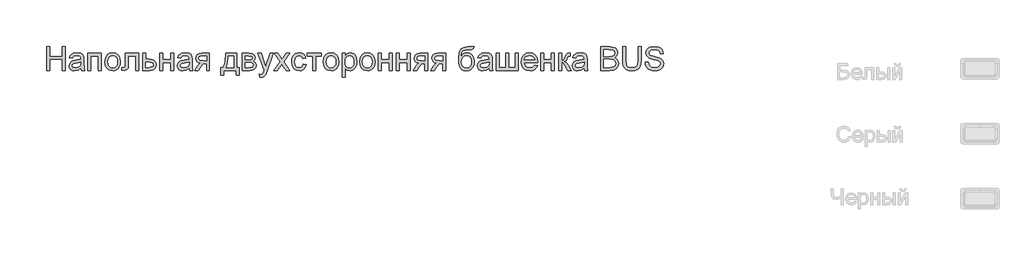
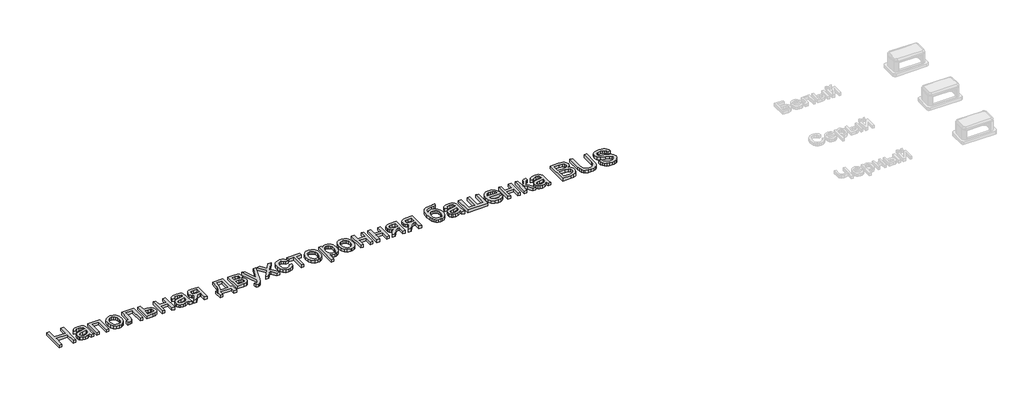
# One storey, part 35 of 48: 1 proxy.
"""IFC4 building model written with IfcOpenShell, lengths in millimetres."""

from ifc_helpers import new_model, si_unit, origin, origin_with_axes, place, context, project, spatial, polyline, outline, extrude, element, save

model = new_model("IFC4")

# Units and contexts
model_context = context("Model", 3, world=origin())
ifc_project = project(units=[si_unit("LENGTHUNIT", "METRE", prefix="MILLI")], contexts=[model_context])

# Site, building, storey
site = spatial("IfcSite", under=ifc_project)
building = spatial("IfcBuilding", under=site)
storey = spatial("IfcBuildingStorey", under=building, Name="Этаж 01", Elevation=0.0)

# Proxy
placement = place(None, origin())
element("IfcBuildingElementProxy", 1, Name="150 мм Arial", ObjectType="150 мм Arial", at=placement, inside=storey, context=model_context, shape_type="SweptSolid", body=[
    extrude(outline(polyline([(19595.0689144, 1029.1344555), (19595.0689144, 1179.8189207), (19613.9044725, 1179.8189207), (19613.9044725, 1118.6033567), (19693.9555947, 1118.6033567), (19693.9555947, 1179.8189207), (19712.7911528, 1179.8189207), (19712.7911528, 1029.1344555), (19693.9555947, 1029.1344555), (19693.9555947, 1099.7677986), (19613.9044725, 1099.7677986), (19613.9044725, 1029.1344555), (19595.0689144, 1029.1344555)])), origin_with_axes(), (0.0, 0.0, 1.0), 20.0),
    extrude(outline(polyline([(19814.0322779, 1043.2611241), (19795.7669368, 1030.4956189), (19775.5886094, 1026.7800107), (19759.8478585, 1029.0148939), (19748.2365831, 1035.7195432), (19741.0766797, 1045.9006774), (19738.6900453, 1058.5650151), (19742.2952888, 1073.4642359), (19751.7682502, 1084.2799666), (19764.9568197, 1090.4603841), (19781.2539921, 1093.2930755), (19813.9219133, 1099.7677986), (19814.0322779, 1103.9616533), (19812.7354939, 1112.3677569), (19808.8451418, 1117.8675927), (19800.1447326, 1121.9510829), (19788.0230208, 1123.3122463), (19768.9667335, 1119.6886086), (19759.8800482, 1106.8311329), (19741.04449, 1109.1855777), (19749.1930762, 1127.5796774), (19765.6006132, 1138.3586199), (19790.451042, 1142.1478044), (19813.2781198, 1138.8000783), (19826.1723837, 1130.3939747), (19831.9481311, 1117.6100753), (19832.867836, 1101.128962), (19832.867836, 1077.6948789), (19833.8243292, 1044.9717754), (19837.5767256, 1029.1344555), (19818.7411674, 1029.1344555), (19814.0322779, 1043.2611241)]), holes=[polyline([(19814.0322779, 1080.9322404), (19783.6452251, 1075.1564931), (19767.4400232, 1072.1030725), (19760.1007774, 1067.1366656), (19757.5256034, 1059.8893903), (19763.1358039, 1049.699059), (19779.5985231, 1045.6155689), (19798.6548105, 1050.1221233), (19810.9420691, 1061.0298245), (19813.9219133, 1075.5979515), (19814.0322779, 1080.9322404)])]), origin_with_axes(), (0.0, 0.0, 1.0), 20.0),
    extrude(outline(polyline([(19858.7667285, 1139.7933597), (19943.5267402, 1139.7933597), (19943.5267402, 1029.1344555), (19924.691182, 1029.1344555), (19924.691182, 1120.9578015), (19877.6022867, 1120.9578015), (19877.6022867, 1029.1344555), (19858.7667285, 1029.1344555), (19858.7667285, 1139.7933597)])), origin_with_axes(), (0.0, 0.0, 1.0), 20.0),
    extrude(outline(polyline([(19967.0711879, 1084.4639076), (19971.145481, 1111.1445493), (19983.3683603, 1129.897334), (19998.4699162, 1139.0851868), (20016.5513162, 1142.1478044), (20036.3387691, 1138.4184007), (20052.1438993, 1127.2301895), (20062.504376, 1109.4660877), (20065.9578682, 1086.009012), (20064.4311579, 1066.9803158), (20059.8510271, 1052.4949622), (20052.3508329, 1041.6470419), (20042.0639326, 1033.5306453), (20029.8456518, 1028.4676694), (20016.5513162, 1026.7800107), (19996.5247401, 1030.4956189), (19980.738004, 1041.6424433), (19970.4878919, 1059.7790257), (19967.0711879, 1084.4639076)]), holes=[polyline([(19985.906746, 1084.5006958), (19988.0864469, 1067.4539638), (19994.6255493, 1055.3092595), (20004.4663927, 1048.0389915), (20016.5513162, 1045.6155689), (20028.5810575, 1048.0527871), (20038.4035067, 1055.3644418), (20044.9426092, 1067.6700945), (20047.12231, 1085.089307), (20044.9288136, 1101.6393982), (20038.3483245, 1113.6185557), (20028.5120796, 1120.8888236), (20016.5513162, 1123.3122463), (20004.4663927, 1120.8980207), (19994.6255493, 1113.6553439), (19988.0864469, 1101.5382307), (19985.906746, 1084.5006958)])]), origin_with_axes(), (0.0, 0.0, 1.0), 20.0),
    extrude(outline(polyline([(20096.5656502, 1139.7933597), (20181.3256619, 1139.7933597), (20181.3256619, 1029.2448201), (20162.4901037, 1029.2448201), (20162.4901037, 1120.9578015), (20115.4012083, 1120.9578015), (20115.4012083, 1068.1667352), (20114.1320155, 1043.8129471), (20107.1606516, 1033.5306453), (20090.6795383, 1029.1344555), (20075.3756473, 1030.0909487), (20075.3756473, 1047.9700137), (20083.800145, 1047.9700137), (20092.3166131, 1049.1288419), (20095.7195216, 1052.8076619), (20096.5656502, 1069.233593), (20096.5656502, 1139.7933597)])), origin_with_axes(), (0.0, 0.0, 1.0), 20.0),
    extrude(outline(polyline([(20209.5789991, 1139.7933597), (20228.4145573, 1139.7933597), (20228.4145573, 1099.7677986), (20250.119595, 1099.7677986), (20268.936759, 1097.4087553), (20282.8610925, 1090.3316254), (20291.4695312, 1079.106626), (20294.3390108, 1064.3039742), (20291.8971941, 1050.8256976), (20284.5717438, 1039.4535455), (20271.8752165, 1031.714228), (20253.3201683, 1029.1344555), (20209.5789991, 1029.1344555), (20209.5789991, 1139.7933597)]), holes=[polyline([(20228.4145573, 1047.9700137), (20245.9993166, 1047.9700137), (20268.7160298, 1051.9247451), (20273.8065969, 1056.9877211), (20275.5034526, 1064.267186), (20270.4818634, 1075.8554689), (20262.4114521, 1079.6630475), (20248.2433968, 1080.9322404), (20228.4145573, 1080.9322404), (20228.4145573, 1047.9700137)])]), origin_with_axes(), (0.0, 0.0, 1.0), 20.0),
    extrude(outline(polyline([(20317.8834585, 1139.7933597), (20336.7190166, 1139.7933597), (20336.7190166, 1097.4133538), (20386.1623568, 1097.4133538), (20386.1623568, 1139.7933597), (20404.9979149, 1139.7933597), (20404.9979149, 1029.1344555), (20386.1623568, 1029.1344555), (20386.1623568, 1078.5777957), (20336.7190166, 1078.5777957), (20336.7190166, 1029.1344555), (20317.8834585, 1029.1344555), (20317.8834585, 1139.7933597)])), origin_with_axes(), (0.0, 0.0, 1.0), 20.0),
    extrude(outline(polyline([(20503.8845952, 1043.2611241), (20485.6192542, 1030.4956189), (20465.4409268, 1026.7800107), (20449.7001759, 1029.0148939), (20438.0889004, 1035.7195432), (20430.9289971, 1045.9006774), (20428.5423626, 1058.5650151), (20432.1476062, 1073.4642359), (20441.6205676, 1084.2799666), (20454.8091371, 1090.4603841), (20471.1063095, 1093.2930755), (20503.7742306, 1099.7677986), (20503.8845952, 1103.9616533), (20502.5878112, 1112.3677569), (20498.6974591, 1117.8675927), (20489.9970499, 1121.9510829), (20477.8753382, 1123.3122463), (20458.8190508, 1119.6886086), (20449.7323656, 1106.8311329), (20430.8968074, 1109.1855777), (20439.0453936, 1127.5796774), (20455.4529306, 1138.3586199), (20480.3033594, 1142.1478044), (20503.1304372, 1138.8000783), (20516.0247011, 1130.3939747), (20521.8004484, 1117.6100753), (20522.7201534, 1101.128962), (20522.7201534, 1077.6948789), (20523.6766466, 1044.9717754), (20527.4290429, 1029.1344555), (20508.5934848, 1029.1344555), (20503.8845952, 1043.2611241)]), holes=[polyline([(20503.8845952, 1080.9322404), (20473.4975424, 1075.1564931), (20457.2923406, 1072.1030725), (20449.9530948, 1067.1366656), (20447.3779208, 1059.8893903), (20452.9881212, 1049.699059), (20469.4508405, 1045.6155689), (20488.5071278, 1050.1221233), (20500.7943865, 1061.0298245), (20503.7742306, 1075.5979515), (20503.8845952, 1080.9322404)])]), origin_with_axes(), (0.0, 0.0, 1.0), 20.0),
    extrude(outline(polyline([(20633.3790575, 1139.7933597), (20633.3790575, 1029.1344555), (20614.5434994, 1029.1344555), (20614.5434994, 1071.5144613), (20604.2795917, 1071.5144613), (20590.3000759, 1069.1232284), (20577.1666887, 1053.0467852), (20562.1571033, 1029.1344555), (20540.3784892, 1029.1344555), (20559.2876237, 1059.3743555), (20567.638545, 1070.2268744), (20575.3272787, 1075.0461285), (20562.4514089, 1078.9916629), (20553.4015118, 1086.4872586), (20548.0488288, 1096.4568606), (20546.2646011, 1107.8244143), (20548.7018193, 1120.7186782), (20556.013474, 1130.9274036), (20567.9420477, 1137.5768706), (20584.230023, 1139.7933597), (20633.3790575, 1139.7933597)]), holes=[polyline([(20614.5434994, 1120.9578015), (20589.7114647, 1120.9578015), (20576.8861787, 1119.8679511), (20569.6067137, 1116.5983999), (20565.1001592, 1106.3896745), (20566.7602267, 1099.2113771), (20571.7404293, 1094.2311746), (20595.2664828, 1090.3500195), (20614.5434994, 1090.3500195), (20614.5434994, 1120.9578015)])]), origin_with_axes(), (0.0, 0.0, 1.0), 20.0),
    extrude(outline(polyline([(20736.9746274, 1139.7933597), (20807.6079705, 1139.7933597), (20807.6079705, 1047.9700137), (20821.7346391, 1047.9700137), (20821.7346391, 998.5266735), (20802.8990809, 998.5266735), (20802.8990809, 1029.1344555), (20725.2024035, 1029.1344555), (20725.2024035, 998.5266735), (20706.3668454, 998.5266735), (20706.3668454, 1047.9700137), (20718.1390692, 1047.9700137), (20726.6969242, 1063.434853), (20732.6888021, 1083.8936905), (20736.9746274, 1139.7933597)]), holes=[polyline([(20753.4557408, 1120.9578015), (20749.0411568, 1078.0443668), (20739.3290722, 1047.9700137), (20788.7724123, 1047.9700137), (20788.7724123, 1120.9578015), (20753.4557408, 1120.9578015)])]), origin_with_axes(), (0.0, 0.0, 1.0), 20.0),
    extrude(outline(polyline([(20842.924642, 1139.7933597), (20884.4217311, 1139.7933597), (20907.1752325, 1137.273368), (20919.9775259, 1128.0395299), (20925.3302089, 1111.9446926), (20922.0928474, 1098.8664877), (20912.3439745, 1089.5406791), (20924.9991151, 1079.3319537), (20930.0390985, 1061.5816475), (20926.8477222, 1047.2250526), (20919.260156, 1037.1174948), (20907.2488089, 1031.1302153), (20890.7860896, 1029.1344555), (20842.924642, 1029.1344555), (20842.924642, 1139.7933597)]), holes=[polyline([(20861.7602002, 1097.4133538), (20880.3750291, 1097.4133538), (20895.7341024, 1098.369847), (20903.2021069, 1102.1958197), (20906.4946508, 1109.1120013), (20905.0507139, 1114.7313987), (20900.7189034, 1118.3458393), (20880.9636403, 1120.9578015), (20861.7602002, 1120.9578015), (20861.7602002, 1097.4133538)]), polyline([(20861.7602002, 1047.9700137), (20884.8631895, 1047.9700137), (20905.3542166, 1051.3729221), (20909.5940566, 1056.0128338), (20911.2035403, 1063.1267519), (20907.9845728, 1072.195043), (20899.5968634, 1077.4741497), (20883.0237795, 1078.5777957), (20861.7602002, 1078.5777957), (20861.7602002, 1047.9700137)])]), origin_with_axes(), (0.0, 0.0, 1.0), 20.0),
    extrude(outline(polyline([(20953.5835462, 986.7544497), (20951.2291014, 1004.891032), (20960.7940333, 1003.235563), (20969.7335657, 1005.3140963), (20975.2150075, 1011.1082377), (20980.3653554, 1024.977389), (20981.8368834, 1029.5391257), (20941.8113223, 1139.7933597), (20961.67695, 1139.7933597), (20982.9037412, 1078.3570665), (20990.2981693, 1053.7825492), (20997.6925974, 1075.4875869), (21019.5079997, 1139.7933597), (21039.2264746, 1139.7933597), (21000.7092297, 1026.4857051), (20990.7028395, 1001.9111879), (20979.7767442, 988.6306478), (20965.0982526, 984.4000049), (20953.5835462, 986.7544497)])), origin_with_axes(), (0.0, 0.0, 1.0), 20.0),
    extrude(outline(polyline([(21043.0524474, 1029.1344555), (21083.2987377, 1084.7582132), (21045.4068921, 1139.7933597), (21068.068423, 1139.7933597), (21086.3521582, 1113.305856), (21094.8870205, 1100.7978682), (21102.2814486, 1111.0249876), (21123.1035695, 1139.7933597), (21145.7651004, 1139.7933597), (21105.9602686, 1084.7582132), (21144.2935725, 1029.1344555), (21121.6320415, 1029.1344555), (21098.5658404, 1062.5749289), (21094.3351975, 1068.68177), (21065.7139783, 1029.1344555), (21043.0524474, 1029.1344555)])), origin_with_axes(), (0.0, 0.0, 1.0), 20.0),
    extrude(outline(polyline([(21231.4080289, 1069.1600166), (21250.2435871, 1066.8055718), (21244.9920716, 1050.0531455), (21235.1236371, 1037.3934063), (21221.5671855, 1029.4333596), (21205.2516191, 1026.7800107), (21185.2158459, 1030.4818233), (21169.5486714, 1041.587261), (21159.4365151, 1059.6088803), (21156.0657963, 1084.0592374), (21157.5051346, 1100.8208608), (21161.8231495, 1115.3476011), (21169.0888189, 1127.0784382), (21179.3711207, 1135.4523521), (21191.6721749, 1140.4739413), (21204.9941017, 1142.1478044), (21220.9095965, 1139.848542), (21233.633715, 1132.9507545), (21242.761787, 1121.8223242), (21247.8891423, 1106.8311329), (21229.0535841, 1104.4766881), (21220.3163868, 1118.5849626), (21205.1412545, 1123.3122463), (21192.9689589, 1120.9853927), (21183.307458, 1114.0048318), (21177.0028803, 1101.9934847), (21174.9013544, 1084.5742722), (21176.9568951, 1066.9205349), (21183.123517, 1054.8678011), (21192.610274, 1047.9286269), (21204.6262197, 1045.6155689), (21214.3796911, 1047.0595057), (21222.3765259, 1051.3913162), (21228.19366, 1058.721365), (21231.4080289, 1069.1600166)])), origin_with_axes(), (0.0, 0.0, 1.0), 20.0),
    extrude(outline(polyline([(21257.3069214, 1139.7933597), (21346.7758226, 1139.7933597), (21346.7758226, 1120.9578015), (21311.4591511, 1120.9578015), (21311.4591511, 1029.1344555), (21292.6235929, 1029.1344555), (21292.6235929, 1120.9578015), (21257.3069214, 1120.9578015), (21257.3069214, 1139.7933597)])), origin_with_axes(), (0.0, 0.0, 1.0), 20.0),
    extrude(outline(polyline([(21358.5480464, 1084.4639076), (21362.6223395, 1111.1445493), (21374.8452188, 1129.897334), (21389.9467747, 1139.0851868), (21408.0281748, 1142.1478044), (21427.8156276, 1138.4184007), (21443.6207578, 1127.2301895), (21453.9812345, 1109.4660877), (21457.4347267, 1086.009012), (21455.9080165, 1066.9803158), (21451.3278856, 1052.4949622), (21443.8276914, 1041.6470419), (21433.5407912, 1033.5306453), (21421.3225104, 1028.4676694), (21408.0281748, 1026.7800107), (21388.0015987, 1030.4956189), (21372.2148626, 1041.6424433), (21361.9647505, 1059.7790257), (21358.5480464, 1084.4639076)]), holes=[polyline([(21377.3836046, 1084.5006958), (21379.5633054, 1067.4539638), (21386.1024079, 1055.3092595), (21395.9432513, 1048.0389915), (21408.0281748, 1045.6155689), (21420.057916, 1048.0527871), (21429.8803653, 1055.3644418), (21436.4194678, 1067.6700945), (21438.5991686, 1085.089307), (21436.4056722, 1101.6393982), (21429.825183, 1113.6185557), (21419.9889382, 1120.8888236), (21408.0281748, 1123.3122463), (21395.9432513, 1120.8980207), (21386.1024079, 1113.6553439), (21379.5633054, 1101.5382307), (21377.3836046, 1084.5006958)])]), origin_with_axes(), (0.0, 0.0, 1.0), 20.0),
    extrude(outline(polyline([(21478.6247297, 986.7544497), (21478.6247297, 1139.7933597), (21497.4602878, 1139.7933597), (21497.4602878, 1121.3256835), (21510.4833104, 1136.9422742), (21528.0680698, 1142.1478044), (21540.8059839, 1140.3267885), (21551.9436113, 1134.8637409), (21561.0119025, 1126.0897553), (21567.5418079, 1114.3359256), (21572.8025204, 1085.3100362), (21571.3171969, 1069.2014033), (21566.8612262, 1054.7942247), (21559.5771627, 1042.8196657), (21549.6075606, 1034.0088919), (21537.9962852, 1028.587231), (21525.7872014, 1026.7800107), (21509.3980586, 1031.617659), (21497.4602878, 1043.8497353), (21497.4602878, 986.7544497), (21478.6247297, 986.7544497)]), holes=[polyline([(21497.4602878, 1083.5809908), (21499.4974344, 1066.6952072), (21505.608874, 1054.8861952), (21514.6265814, 1047.9332255), (21525.3825313, 1045.6155689), (21536.313225, 1048.0159989), (21545.5608587, 1055.217289), (21551.8654364, 1067.4585624), (21553.9669623, 1084.9789424), (21551.9160202, 1101.7727555), (21545.7631938, 1113.7473144), (21536.759282, 1120.9210133), (21526.1550834, 1123.3122463), (21515.5094982, 1120.769262), (21506.160697, 1113.1403091), (21499.6353901, 1100.6645109), (21497.4602878, 1083.5809908)])]), origin_with_axes(), (0.0, 0.0, 1.0), 20.0),
    extrude(outline(polyline([(21589.2836338, 1084.4639076), (21593.3579269, 1111.1445493), (21605.5808062, 1129.897334), (21620.6823621, 1139.0851868), (21638.7637622, 1142.1478044), (21658.551215, 1138.4184007), (21674.3563452, 1127.2301895), (21684.7168219, 1109.4660877), (21688.1703141, 1086.009012), (21686.6436038, 1066.9803158), (21682.063473, 1052.4949622), (21674.5632788, 1041.6470419), (21664.2763785, 1033.5306453), (21652.0580978, 1028.4676694), (21638.7637622, 1026.7800107), (21618.7371861, 1030.4956189), (21602.9504499, 1041.6424433), (21592.7003378, 1059.7790257), (21589.2836338, 1084.4639076)]), holes=[polyline([(21608.119192, 1084.5006958), (21610.2988928, 1067.4539638), (21616.8379953, 1055.3092595), (21626.6788386, 1048.0389915), (21638.7637622, 1045.6155689), (21650.7935034, 1048.0527871), (21660.6159527, 1055.3644418), (21667.1550551, 1067.6700945), (21669.334756, 1085.089307), (21667.1412596, 1101.6393982), (21660.5607704, 1113.6185557), (21650.7245255, 1120.8888236), (21638.7637622, 1123.3122463), (21626.6788386, 1120.8980207), (21616.8379953, 1113.6553439), (21610.2988928, 1101.5382307), (21608.119192, 1084.5006958)])]), origin_with_axes(), (0.0, 0.0, 1.0), 20.0),
    extrude(outline(polyline([(21709.360317, 1139.7933597), (21728.1958752, 1139.7933597), (21728.1958752, 1097.4133538), (21777.6392153, 1097.4133538), (21777.6392153, 1139.7933597), (21796.4747735, 1139.7933597), (21796.4747735, 1029.1344555), (21777.6392153, 1029.1344555), (21777.6392153, 1078.5777957), (21728.1958752, 1078.5777957), (21728.1958752, 1029.1344555), (21709.360317, 1029.1344555), (21709.360317, 1139.7933597)])), origin_with_axes(), (0.0, 0.0, 1.0), 20.0),
    extrude(outline(polyline([(21824.7281107, 1139.7933597), (21843.5636689, 1139.7933597), (21843.5636689, 1097.4133538), (21893.007009, 1097.4133538), (21893.007009, 1139.7933597), (21911.8425672, 1139.7933597), (21911.8425672, 1029.1344555), (21893.007009, 1029.1344555), (21893.007009, 1078.5777957), (21843.5636689, 1078.5777957), (21843.5636689, 1029.1344555), (21824.7281107, 1029.1344555), (21824.7281107, 1139.7933597)])), origin_with_axes(), (0.0, 0.0, 1.0), 20.0),
    extrude(outline(polyline([(22024.8559161, 1139.7933597), (22024.8559161, 1029.1344555), (22006.020358, 1029.1344555), (22006.020358, 1071.5144613), (21995.7564503, 1071.5144613), (21981.7769345, 1069.1232284), (21968.6435472, 1053.0467852), (21953.6339618, 1029.1344555), (21931.8553477, 1029.1344555), (21950.7644823, 1059.3743555), (21959.1154036, 1070.2268744), (21966.8041373, 1075.0461285), (21953.9282674, 1078.9916629), (21944.8783704, 1086.4872586), (21939.5256873, 1096.4568606), (21937.7414596, 1107.8244143), (21940.1786779, 1120.7186782), (21947.4903325, 1130.9274036), (21959.4189062, 1137.5768706), (21975.7068815, 1139.7933597), (22024.8559161, 1139.7933597)]), holes=[polyline([(22006.020358, 1120.9578015), (21981.1883233, 1120.9578015), (21968.3630372, 1119.8679511), (21961.0835722, 1116.5983999), (21956.5770178, 1106.3896745), (21958.2370853, 1099.2113771), (21963.2172878, 1094.2311746), (21986.7433414, 1090.3500195), (22006.020358, 1090.3500195), (22006.020358, 1120.9578015)])]), origin_with_axes(), (0.0, 0.0, 1.0), 20.0),
    extrude(outline(polyline([(22137.869265, 1139.7933597), (22137.869265, 1029.1344555), (22119.0337069, 1029.1344555), (22119.0337069, 1071.5144613), (22108.7697992, 1071.5144613), (22094.7902834, 1069.1232284), (22081.6568962, 1053.0467852), (22066.6473108, 1029.1344555), (22044.8686966, 1029.1344555), (22063.7778312, 1059.3743555), (22072.1287525, 1070.2268744), (22079.8174862, 1075.0461285), (22066.9416164, 1078.9916629), (22057.8917193, 1086.4872586), (22052.5390362, 1096.4568606), (22050.7548086, 1107.8244143), (22053.1920268, 1120.7186782), (22060.5036814, 1130.9274036), (22072.4322551, 1137.5768706), (22088.7202305, 1139.7933597), (22137.869265, 1139.7933597)]), holes=[polyline([(22119.0337069, 1120.9578015), (22094.2016722, 1120.9578015), (22081.3763861, 1119.8679511), (22074.0969212, 1116.5983999), (22069.5903667, 1106.3896745), (22071.2504342, 1099.2113771), (22076.2306367, 1094.2311746), (22099.7566903, 1090.3500195), (22119.0337069, 1090.3500195), (22119.0337069, 1120.9578015)])]), origin_with_axes(), (0.0, 0.0, 1.0), 20.0),
    extrude(outline(polyline([(22302.6803989, 1182.1733655), (22319.1615122, 1182.1733655), (22314.3054699, 1167.4764798), (22304.7037498, 1162.160585), (22281.6375487, 1160.9833626), (22250.5699142, 1156.642355), (22243.4422006, 1150.9953664), (22238.6505376, 1142.7364156), (22234.6222298, 1118.1251101), (22250.9377962, 1136.1513279), (22260.8568145, 1140.6486853), (22271.9622523, 1142.1478044), (22291.5611656, 1138.3356272), (22307.4628648, 1126.8990957), (22318.002684, 1108.9602499), (22321.515957, 1085.64113), (22319.7731161, 1067.6608975), (22314.5445932, 1053.2307262), (22298.0082975, 1033.6777981), (22286.7143203, 1028.5044576), (22271.9622523, 1026.7800107), (22254.9615056, 1029.0010983), (22242.218993, 1035.6643609), (22232.8426006, 1045.7903128), (22225.9402147, 1058.3994682), (22221.6911776, 1077.3867777), (22220.2748319, 1106.6471919), (22223.8478858, 1142.7869994), (22234.5670475, 1164.8277294), (22252.6990313, 1176.0711229), (22278.5105518, 1179.8189207), (22299.4798255, 1180.241985), (22302.6803989, 1182.1733655)]), holes=[polyline([(22302.6803989, 1086.2297412), (22300.6386538, 1101.050787), (22294.5134186, 1112.9195799), (22284.6725752, 1120.7140797), (22271.4840057, 1123.3122463), (22257.7344161, 1120.5669269), (22247.5348878, 1112.3309687), (22241.2165145, 1099.5056827), (22239.1103901, 1082.9923796), (22241.4372437, 1066.9849143), (22248.4178046, 1055.2356831), (22258.8104709, 1048.0205974), (22271.3736411, 1045.6155689), (22284.0011906, 1048.3976765), (22293.9983838, 1056.7439992), (22300.5098951, 1069.6796499), (22302.6803989, 1086.2297412)])]), origin_with_axes(), (0.0, 0.0, 1.0), 20.0),
    extrude(outline(polyline([(22415.6937478, 1043.2611241), (22397.4284067, 1030.4956189), (22377.2500793, 1026.7800107), (22361.5093284, 1029.0148939), (22349.8980529, 1035.7195432), (22342.7381496, 1045.9006774), (22340.3515152, 1058.5650151), (22343.9567587, 1073.4642359), (22353.4297201, 1084.2799666), (22366.6182896, 1090.4603841), (22382.915462, 1093.2930755), (22415.5833832, 1099.7677986), (22415.6937478, 1103.9616533), (22414.3969637, 1112.3677569), (22410.5066116, 1117.8675927), (22401.8062025, 1121.9510829), (22389.6844907, 1123.3122463), (22370.6282034, 1119.6886086), (22361.5415181, 1106.8311329), (22342.7059599, 1109.1855777), (22350.8545461, 1127.5796774), (22367.2620831, 1138.3586199), (22392.1125119, 1142.1478044), (22414.9395897, 1138.8000783), (22427.8338536, 1130.3939747), (22433.6096009, 1117.6100753), (22434.5293059, 1101.128962), (22434.5293059, 1077.6948789), (22435.4857991, 1044.9717754), (22439.2381955, 1029.1344555), (22420.4026373, 1029.1344555), (22415.6937478, 1043.2611241)]), holes=[polyline([(22415.6937478, 1080.9322404), (22385.306695, 1075.1564931), (22369.1014931, 1072.1030725), (22361.7622473, 1067.1366656), (22359.1870733, 1059.8893903), (22364.7972737, 1049.699059), (22381.259993, 1045.6155689), (22400.3162804, 1050.1221233), (22412.603539, 1061.0298245), (22415.5833832, 1075.5979515), (22415.6937478, 1080.9322404)])]), origin_with_axes(), (0.0, 0.0, 1.0), 20.0),
    extrude(outline(polyline([(22460.4281984, 1139.7933597), (22479.2637565, 1139.7933597), (22479.2637565, 1047.9700137), (22521.6437624, 1047.9700137), (22521.6437624, 1139.7933597), (22540.4793205, 1139.7933597), (22540.4793205, 1047.9700137), (22582.8593264, 1047.9700137), (22582.8593264, 1139.7933597), (22601.6948845, 1139.7933597), (22601.6948845, 1029.1344555), (22460.4281984, 1029.1344555), (22460.4281984, 1139.7933597)])), origin_with_axes(), (0.0, 0.0, 1.0), 20.0),
    extrude(outline(polyline([(22705.0697252, 1062.0966823), (22723.5374013, 1059.7422375), (22716.8833358, 1045.827101), (22706.2653417, 1035.4252376), (22691.9225424, 1028.9413175), (22674.0940612, 1026.7800107), (22651.9935503, 1030.5094145), (22634.9882051, 1041.6976256), (22624.1448833, 1059.6180773), (22620.5304427, 1083.5442026), (22624.1816715, 1108.2750697), (22635.1353579, 1126.770337), (22651.9107769, 1138.3034376), (22673.0272034, 1142.1478044), (22693.4860409, 1138.3126346), (22709.833797, 1126.8071252), (22720.5529587, 1108.3486461), (22724.1260125, 1083.6545672), (22724.0156479, 1078.5777957), (22639.3660008, 1078.5777957), (22642.626355, 1064.4787182), (22650.2001256, 1054.113643), (22661.1308194, 1047.7400874), (22674.4619432, 1045.6155689), (22692.9296193, 1049.5519062), (22705.0697252, 1062.0966823)]), holes=[polyline([(22639.3660008, 1097.4133538), (22705.2904544, 1097.4133538), (22702.7428716, 1107.3645618), (22697.7488735, 1114.4830784), (22686.7675959, 1121.1049543), (22672.953627, 1123.3122463), (22660.2570996, 1121.5510112), (22649.7586672, 1116.2673061), (22642.4608081, 1108.0313479), (22639.3660008, 1097.4133538)])]), origin_with_axes(), (0.0, 0.0, 1.0), 20.0),
    extrude(outline(polyline([(22742.9615707, 1139.7933597), (22761.7971288, 1139.7933597), (22761.7971288, 1097.4133538), (22811.240469, 1097.4133538), (22811.240469, 1139.7933597), (22830.0760271, 1139.7933597), (22830.0760271, 1029.1344555), (22811.240469, 1029.1344555), (22811.240469, 1078.5777957), (22761.7971288, 1078.5777957), (22761.7971288, 1029.1344555), (22742.9615707, 1029.1344555), (22742.9615707, 1139.7933597)])), origin_with_axes(), (0.0, 0.0, 1.0), 20.0),
    extrude(outline(polyline([(22858.3293644, 1139.7933597), (22877.1649225, 1139.7933597), (22877.1649225, 1092.7044643), (22889.783275, 1096.0889786), (22900.120759, 1115.8074536), (22908.7108036, 1132.8219958), (22916.2891727, 1138.3586199), (22930.0663534, 1139.7933597), (22933.671597, 1139.7933597), (22933.671597, 1120.8474369), (22928.5948255, 1120.9578015), (22919.3977756, 1118.9712387), (22912.9230525, 1106.5736155), (22905.3262893, 1093.1643168), (22894.6761055, 1086.5976232), (22906.5586939, 1079.2675744), (22918.2205532, 1063.8257277), (22938.3804865, 1029.1344555), (22916.9697544, 1029.1344555), (22897.2144913, 1063.0899637), (22887.2816774, 1077.4557556), (22877.1649225, 1080.9322404), (22877.1649225, 1029.1344555), (22858.3293644, 1029.1344555), (22858.3293644, 1139.7933597)])), origin_with_axes(), (0.0, 0.0, 1.0), 20.0),
    extrude(outline(polyline([(23020.7860534, 1043.2611241), (23002.5207124, 1030.4956189), (22982.342385, 1026.7800107), (22966.6016341, 1029.0148939), (22954.9903586, 1035.7195432), (22947.8304553, 1045.9006774), (22945.4438208, 1058.5650151), (22949.0490644, 1073.4642359), (22958.5220258, 1084.2799666), (22971.7105953, 1090.4603841), (22988.0077677, 1093.2930755), (23020.6756888, 1099.7677986), (23020.7860534, 1103.9616533), (23019.4892694, 1112.3677569), (23015.5989173, 1117.8675927), (23006.8985081, 1121.9510829), (22994.7767964, 1123.3122463), (22975.720509, 1119.6886086), (22966.6338238, 1106.8311329), (22947.7982656, 1109.1855777), (22955.9468518, 1127.5796774), (22972.3543888, 1138.3586199), (22997.2048176, 1142.1478044), (23020.0318954, 1138.8000783), (23032.9261593, 1130.3939747), (23038.7019066, 1117.6100753), (23039.6216116, 1101.128962), (23039.6216116, 1077.6948789), (23040.5781048, 1044.9717754), (23044.3305011, 1029.1344555), (23025.494943, 1029.1344555), (23020.7860534, 1043.2611241)]), holes=[polyline([(23020.7860534, 1080.9322404), (22990.3990006, 1075.1564931), (22974.1937988, 1072.1030725), (22966.854553, 1067.1366656), (22964.279379, 1059.8893903), (22969.8895794, 1049.699059), (22986.3522987, 1045.6155689), (23005.408586, 1050.1221233), (23017.6958447, 1061.0298245), (23020.6756888, 1075.5979515), (23020.7860534, 1080.9322404)])]), origin_with_axes(), (0.0, 0.0, 1.0), 20.0),
    extrude(outline(polyline([(23126.7360681, 1029.1344555), (23126.7360681, 1179.8189207), (23184.2360239, 1179.8189207), (23212.3973906, 1175.3859427), (23221.861155, 1169.7619467), (23229.0256568, 1161.7559148), (23235.0405274, 1142.4788982), (23229.98215, 1124.8757448), (23214.6966531, 1111.5400224), (23225.3698295, 1105.9666102), (23233.2562998, 1097.4869302), (23238.1261377, 1086.6620025), (23239.749417, 1074.0528471), (23235.3164389, 1053.8009433), (23224.3351614, 1039.3799691), (23207.9460185, 1031.7280236), (23183.7945655, 1029.1344555), (23126.7360681, 1029.1344555)]), holes=[polyline([(23145.5716262, 1118.6033567), (23179.9685928, 1118.6033567), (23200.0549497, 1120.2220375), (23212.1398732, 1127.1934013), (23216.2049693, 1139.4622659), (23212.4157847, 1151.7495245), (23201.5632659, 1159.0151939), (23177.3566306, 1160.9833626), (23145.5716262, 1160.9833626), (23145.5716262, 1118.6033567)]), polyline([(23145.5716262, 1047.9700137), (23184.1992357, 1047.9700137), (23198.1787515, 1048.7057776), (23210.0061577, 1052.8076619), (23217.8420442, 1061.1769773), (23220.9138588, 1073.8689061), (23217.3086153, 1088.5106095), (23205.6283619, 1097.2478069), (23182.3598257, 1099.7677986), (23145.5716262, 1099.7677986), (23145.5716262, 1047.9700137)])]), origin_with_axes(), (0.0, 0.0, 1.0), 20.0),
    extrude(outline(polyline([(23364.5349897, 1179.8189207), (23383.3705479, 1179.8189207), (23383.3705479, 1092.8884053), (23382.092158, 1072.5307354), (23378.2569882, 1056.8543638), (23371.0924863, 1044.7602433), (23359.8261002, 1035.1493261), (23344.4302387, 1028.8723396), (23324.8773107, 1026.7800107), (23305.7520454, 1028.6010266), (23290.46195, 1034.0640742), (23279.0024259, 1042.9806141), (23271.3688745, 1055.1621067), (23267.0784507, 1071.5006658), (23265.6483094, 1092.8884053), (23265.6483094, 1179.8189207), (23284.4838676, 1179.8189207), (23284.4838676, 1093.5505929), (23288.1994757, 1064.8374031), (23293.2486561, 1056.6750214), (23300.964981, 1050.618764), (23323.1114771, 1045.6155689), (23342.268932, 1048.0895753), (23355.0068461, 1055.5115946), (23362.1529538, 1069.969357), (23364.5349897, 1093.5505929), (23364.5349897, 1179.8189207)])), origin_with_axes(), (0.0, 0.0, 1.0), 20.0),
    extrude(outline(polyline([(23409.2694404, 1080.9322404), (23428.1049985, 1080.9322404), (23434.1750514, 1062.0782882), (23449.0006958, 1050.1589115), (23471.5886503, 1045.6155689), (23491.2703371, 1049.0552655), (23503.98066, 1058.5098328), (23508.1561207, 1071.1465794), (23505.0291237, 1082.9004091), (23492.2268303, 1091.4536655), (23464.8012275, 1098.6457585), (23435.2786974, 1107.9347789), (23419.2574365, 1121.9510829), (23413.9783299, 1140.6762764), (23415.6108062, 1151.7081378), (23420.5082353, 1161.9950381), (23428.5418584, 1170.7138413), (23439.5829168, 1177.0414117), (23467.5051602, 1182.1733655), (23497.3036018, 1176.8022884), (23508.7263378, 1170.1712154), (23517.1692295, 1161.0201508), (23522.5127155, 1149.9193116), (23524.637234, 1137.4389149), (23505.8016759, 1137.4389149), (23502.3435851, 1148.6777098), (23495.133098, 1156.7895078), (23483.8667119, 1161.7007325), (23468.2409242, 1163.3378073), (23452.2472544, 1161.7191266), (23441.2751739, 1156.8630842), (23434.9292095, 1149.7169765), (23432.813888, 1141.2280994), (23434.3130072, 1133.9900212), (23438.8103646, 1128.1682886), (23469.5652994, 1117.6468635), (23502.8954081, 1108.1922963), (23513.6329639, 1101.3588882), (23521.123961, 1092.9251935), (23525.5247494, 1082.9831825), (23526.9916788, 1071.6248259), (23525.3040202, 1060.0135505), (23520.2410442, 1049.0920537), (23512.0096846, 1039.6926688), (23500.8168749, 1032.6477286), (23487.3569924, 1028.2469402), (23472.3244143, 1026.7800107), (23453.8705337, 1028.3619033), (23438.6816059, 1033.1075811), (23426.5828868, 1041.035438), (23417.3996324, 1052.1638684), (23411.5043235, 1065.7203199), (23409.2694404, 1080.9322404)])), origin_with_axes(), (0.0, 0.0, 1.0), 20.0),
])

save(model, "model.ifc")
